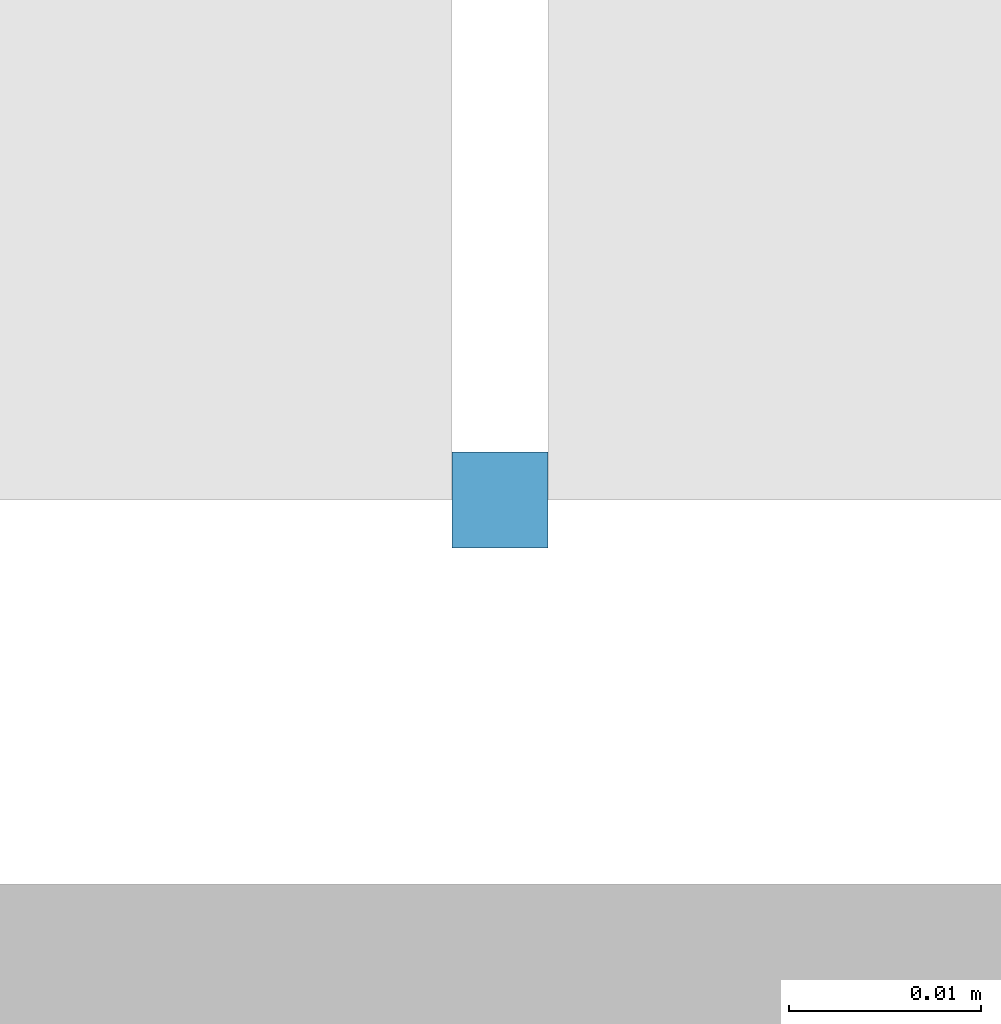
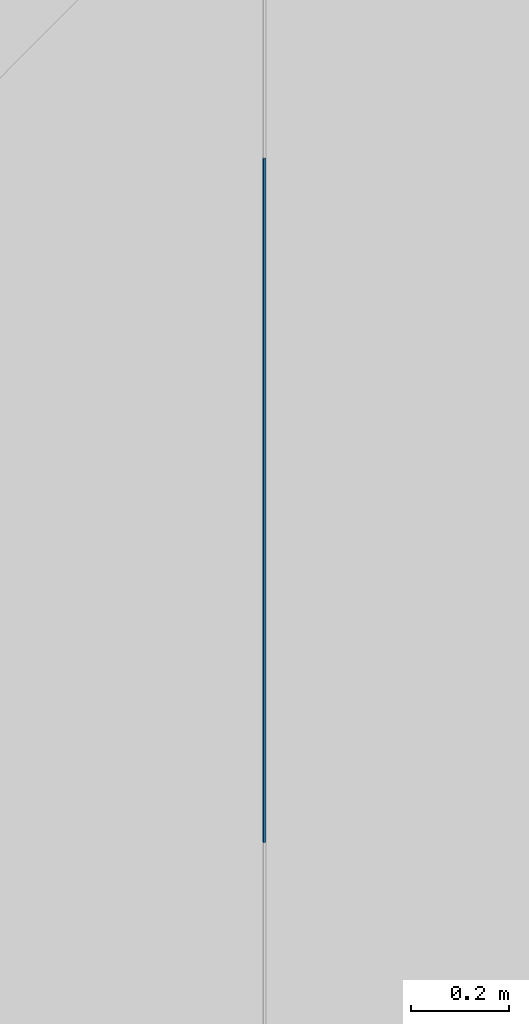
# One storey, part 98 of 302: 1 member, 1 element without a shape of its own.
"""IFC2X3 building model written with IfcOpenShell, lengths in metres."""

from ifc_helpers import new_model, entity, si_unit, converted_unit, derived_unit, direction, frame, frame_2d, origin, place, context, subcontext, project, spatial, rectangle, extrude, source, transform, mapped, material, type_object, type_shapes, element, aggregate, save


model = new_model("IFC2X3")

# Units and contexts
model_context = context("Model", 3, precision=1e-05, world=origin(), true_north=direction((6.12303176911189e-17, 1.0)))
body_context = subcontext(model_context, "Body", "Model", "MODEL_VIEW")
ifc_project = project(units=[si_unit("LENGTHUNIT", "METRE"), si_unit("AREAUNIT", "SQUARE_METRE"), si_unit("VOLUMEUNIT", "CUBIC_METRE"), converted_unit("PLANEANGLEUNIT", "DEGREE", entity("IfcRatioMeasure", 0.0174532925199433), si_unit("PLANEANGLEUNIT", "RADIAN"), dimensions=[0, 0, 0, 0, 0, 0, 0]), si_unit("MASSUNIT", "GRAM", prefix="KILO"), derived_unit("MASSDENSITYUNIT", [(si_unit("MASSUNIT", "GRAM", prefix="KILO"), 1), (si_unit("LENGTHUNIT", "METRE"), -3)]), derived_unit("MOMENTOFINERTIAUNIT", [(si_unit("LENGTHUNIT", "METRE"), 4)]), si_unit("TIMEUNIT", "SECOND"), si_unit("FREQUENCYUNIT", "HERTZ"), si_unit("THERMODYNAMICTEMPERATUREUNIT", "DEGREE_CELSIUS"), derived_unit("THERMALTRANSMITTANCEUNIT", [(si_unit("MASSUNIT", "GRAM", prefix="KILO"), 1), (si_unit("THERMODYNAMICTEMPERATUREUNIT", "KELVIN"), -1), (si_unit("TIMEUNIT", "SECOND"), -3)]), derived_unit("VOLUMETRICFLOWRATEUNIT", [(si_unit("LENGTHUNIT", "METRE"), 3), (si_unit("TIMEUNIT", "SECOND"), -1)]), si_unit("ELECTRICCURRENTUNIT", "AMPERE"), si_unit("ELECTRICVOLTAGEUNIT", "VOLT"), si_unit("POWERUNIT", "WATT"), si_unit("FORCEUNIT", "NEWTON", prefix="KILO"), si_unit("ILLUMINANCEUNIT", "LUX"), si_unit("LUMINOUSFLUXUNIT", "LUMEN"), si_unit("LUMINOUSINTENSITYUNIT", "CANDELA"), derived_unit("USERDEFINED", [(si_unit("MASSUNIT", "GRAM", prefix="KILO"), -1), (si_unit("LENGTHUNIT", "METRE"), -2), (si_unit("TIMEUNIT", "SECOND"), 3), (si_unit("LUMINOUSFLUXUNIT", "LUMEN"), 1)]), derived_unit("LINEARVELOCITYUNIT", [(si_unit("LENGTHUNIT", "METRE"), 1), (si_unit("TIMEUNIT", "SECOND"), -1)]), si_unit("PRESSUREUNIT", "PASCAL"), derived_unit("USERDEFINED", [(si_unit("LENGTHUNIT", "METRE"), -2), (si_unit("MASSUNIT", "GRAM", prefix="KILO"), 1), (si_unit("TIMEUNIT", "SECOND"), -2)]), derived_unit("LINEARFORCEUNIT", [(si_unit("MASSUNIT", "GRAM", prefix="KILO"), 1), (si_unit("LENGTHUNIT", "METRE"), 1), (si_unit("TIMEUNIT", "SECOND"), -2), (si_unit("LENGTHUNIT", "METRE"), -1)]), derived_unit("PLANARFORCEUNIT", [(si_unit("MASSUNIT", "GRAM", prefix="KILO"), 1), (si_unit("LENGTHUNIT", "METRE"), 1), (si_unit("TIMEUNIT", "SECOND"), -2), (si_unit("LENGTHUNIT", "METRE"), -2)])], contexts=[model_context])

# Site, building, storey
site_placement = place(None, origin())
site = spatial("IfcSite", under=ifc_project, at=site_placement, Name="Default", CompositionType="ELEMENT")
building_placement = place(site_placement, origin())
building = spatial("IfcBuilding", under=site, at=building_placement, CompositionType="ELEMENT")
storey_placement = place(building_placement, frame((0.0, 0.0, -1.3)))
storey = spatial("IfcBuildingStorey", under=building, at=storey_placement, Name="00_EG", CompositionType="ELEMENT", Elevation=-1.3)

# Curtain wall, member
curtain_wall_type = type_object("IfcCurtainWallType", Name="Fassade:Curtain Wall 1", PredefinedType="NOTDEFINED")
curtain_wall_placement = place(storey_placement, frame((0.0, 0.0, 1.3)))
curtain_wall = element("IfcCurtainWall", 1, at=curtain_wall_placement, inside=storey, type_object=curtain_wall_type, Name="Fassade:Curtain Wall 1", ObjectType="Fassade:Curtain Wall 1")
ifc_material = material(Name="Aluminium")
member_type = type_object("IfcMemberType", Name="Rectangular Mullion:Paneele Spalt", PredefinedType="MULLION", material=ifc_material)
shared_shape = source(origin(), body_context, "Body", "SweptSolid", [
    extrude(rectangle(XDim=0.005, YDim=0.005, at=frame_2d((0.0, -6.50521303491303e-19), x_axis=(1.0, 0.0))), frame((0.0, 0.0, -1.70964751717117), z_axis=(0.0, 0.0, 1.0), x_axis=(0.0, -1.0, 0.0)), (0.0, 0.0, 1.0), 1.70964751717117),
])
type_shapes(member_type, [shared_shape])
member_placement = place(storey_placement, frame((-218.610111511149, 45.578088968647, 8.49999999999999), z_axis=(0.0, 0.0, -1.0), x_axis=(-1.0, 0.0, 0.0)))
member = element("IfcMember", 2, at=member_placement, type_object=member_type, material=ifc_material, Name="Rectangular Mullion:Paneele Spalt", ObjectType="Rectangular Mullion:Paneele Spalt", context=body_context, shape_type="MappedRepresentation", body=[
    mapped(shared_shape, transform((0.0, 0.0, 0.0), scale=1.0)),
])
aggregate(curtain_wall, [member])

save(model, "model.ifc")
